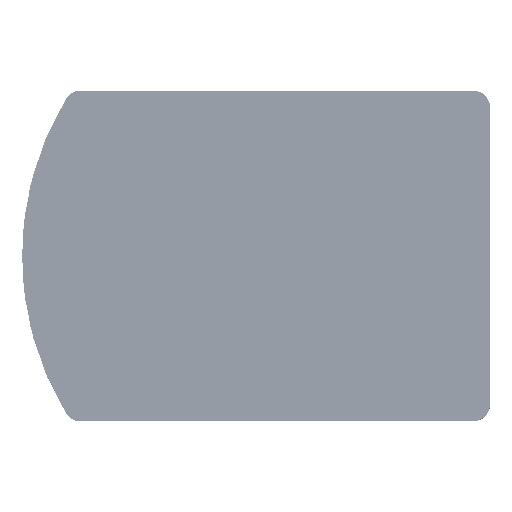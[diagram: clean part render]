
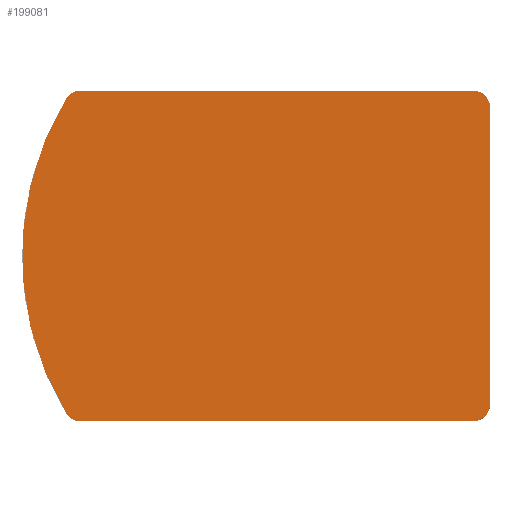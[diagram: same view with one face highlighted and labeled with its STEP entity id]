
A CAD part, top view. The second image highlights one B-rep face of the part: STEP entity #199081.
In plain terms, the highlighted planar face has unit normal (0, 0, 1) as drawn and (0, 0, -1) by its records, which use the part's own axes.
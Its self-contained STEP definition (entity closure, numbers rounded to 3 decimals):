
#963 = CARTESIAN_POINT ( 'NONE',  ( 7.995, 58.558, 0. ) ) ;
#3598 = PLANE ( 'NONE',  #190160 ) ;
#9340 = CARTESIAN_POINT ( 'NONE',  ( 55., 30., 0. ) ) ;
#9962 = CARTESIAN_POINT ( 'NONE',  ( 0., 60., 0. ) ) ;
#15279 = EDGE_CURVE ( 'NONE', #103298, #31121, #136361, .T. ) ;
#15911 = CIRCLE ( 'NONE', #216139, 3. ) ;
#15930 = CIRCLE ( 'NONE', #50949, 3. ) ;
#17712 = VERTEX_POINT ( 'NONE', #196132 ) ;
#31121 = VERTEX_POINT ( 'NONE', #201487 ) ;
#31134 = LINE ( 'NONE', #32179, #40823 ) ;
#32179 = CARTESIAN_POINT ( 'NONE',  ( 85., 0., 0. ) ) ;
#35618 = CIRCLE ( 'NONE', #100342, 0.1 ) ;
#36055 = CARTESIAN_POINT ( 'NONE',  ( 82., 57., 0. ) ) ;
#36875 = ORIENTED_EDGE ( 'NONE', *, *, #173517, .T. ) ;
#39883 = EDGE_CURVE ( 'NONE', #17712, #31121, #234152, .T. ) ;
#40093 = VERTEX_POINT ( 'NONE', #963 ) ;
#40823 = VECTOR ( 'NONE', #262968, 1000. ) ;
#46504 = FACE_OUTER_BOUND ( 'NONE', #217631, .T. ) ;
#48311 = VERTEX_POINT ( 'NONE', #217189 ) ;
#48363 = DIRECTION ( 'NONE',  ( -1., 0., 0. ) ) ;
#50949 = AXIS2_PLACEMENT_3D ( 'NONE', #36055, #56291, #76420 ) ;
#51376 = EDGE_CURVE ( 'NONE', #17712, #266921, #15911, .T. ) ;
#54382 = CARTESIAN_POINT ( 'NONE',  ( 0., 0., 0. ) ) ;
#56291 = DIRECTION ( 'NONE',  ( 0., 0., -1. ) ) ;
#60411 = ORIENTED_EDGE ( 'NONE', *, *, #91990, .T. ) ;
#65160 = CARTESIAN_POINT ( 'NONE',  ( 0., 0., 0. ) ) ;
#74858 = CARTESIAN_POINT ( 'NONE',  ( 85., 57., 0. ) ) ;
#76420 = DIRECTION ( 'NONE',  ( -1., 0., 0. ) ) ;
#77360 = DIRECTION ( 'NONE',  ( -1., 0., 0. ) ) ;
#79246 = CARTESIAN_POINT ( 'NONE',  ( 10.559, 3., 0. ) ) ;
#91990 = EDGE_CURVE ( 'NONE', #232870, #48311, #35618, .T. ) ;
#93753 = DIRECTION ( 'NONE',  ( 1., 0., 0. ) ) ;
#98642 = EDGE_CURVE ( 'NONE', #48311, #232870, #218392, .T. ) ;
#98666 = ORIENTED_EDGE ( 'NONE', *, *, #243011, .F. ) ;
#99863 = VECTOR ( 'NONE', #93753, 1000. ) ;
#100342 = AXIS2_PLACEMENT_3D ( 'NONE', #250335, #209951, #144077 ) ;
#100912 = ORIENTED_EDGE ( 'NONE', *, *, #121033, .F. ) ;
#100984 = CARTESIAN_POINT ( 'NONE',  ( 54.9, 30., 0. ) ) ;
#103298 = VERTEX_POINT ( 'NONE', #203201 ) ;
#103918 = VERTEX_POINT ( 'NONE', #117272 ) ;
#106107 = VERTEX_POINT ( 'NONE', #74858 ) ;
#110207 = AXIS2_PLACEMENT_3D ( 'NONE', #151718, #153500, #48363 ) ;
#111183 = DIRECTION ( 'NONE',  ( 0., 0., 1. ) ) ;
#113495 = CIRCLE ( 'NONE', #221905, 55. ) ;
#117272 = CARTESIAN_POINT ( 'NONE',  ( 82., 60., 0. ) ) ;
#118468 = AXIS2_PLACEMENT_3D ( 'NONE', #181949, #224219, #264549 ) ;
#121033 = EDGE_CURVE ( 'NONE', #103918, #126972, #175759, .T. ) ;
#123171 = DIRECTION ( 'NONE',  ( 0., 0., -1. ) ) ;
#126972 = VERTEX_POINT ( 'NONE', #266556 ) ;
#136361 = CIRCLE ( 'NONE', #272070, 3. ) ;
#144077 = DIRECTION ( 'NONE',  ( 1., 0., 0. ) ) ;
#150134 = DIRECTION ( 'NONE',  ( 0., 0., -1. ) ) ;
#151718 = CARTESIAN_POINT ( 'NONE',  ( 10.559, 57., 0. ) ) ;
#152889 = VECTOR ( 'NONE', #263722, 1000. ) ;
#153500 = DIRECTION ( 'NONE',  ( 0., 0., -1. ) ) ;
#163629 = EDGE_LOOP ( 'NONE', ( #60411, #169906 ) ) ;
#169889 = EDGE_CURVE ( 'NONE', #103918, #106107, #15930, .T. ) ;
#169906 = ORIENTED_EDGE ( 'NONE', *, *, #98642, .T. ) ;
#171829 = EDGE_CURVE ( 'NONE', #103298, #106107, #31134, .T. ) ;
#173517 = EDGE_CURVE ( 'NONE', #40093, #126972, #242141, .T. ) ;
#174241 = DIRECTION ( 'NONE',  ( 1., 0., 0. ) ) ;
#175006 = ORIENTED_EDGE ( 'NONE', *, *, #15279, .T. ) ;
#175759 = LINE ( 'NONE', #9962, #152889 ) ;
#175901 = CARTESIAN_POINT ( 'NONE',  ( 7.995, 1.442, 0. ) ) ;
#178108 = ORIENTED_EDGE ( 'NONE', *, *, #51376, .T. ) ;
#181949 = CARTESIAN_POINT ( 'NONE',  ( 55., 30., 0. ) ) ;
#182479 = CARTESIAN_POINT ( 'NONE',  ( 82., 3., 0. ) ) ;
#190160 = AXIS2_PLACEMENT_3D ( 'NONE', #65160, #150134, #233620 ) ;
#196132 = CARTESIAN_POINT ( 'NONE',  ( 10.559, 0., 0. ) ) ;
#199081 = ADVANCED_FACE ( 'NONE', ( #210071, #46504 ), #3598, .T. ) ;
#201487 = CARTESIAN_POINT ( 'NONE',  ( 82., 0., 0. ) ) ;
#203201 = CARTESIAN_POINT ( 'NONE',  ( 85., 3., 0. ) ) ;
#206236 = ORIENTED_EDGE ( 'NONE', *, *, #39883, .F. ) ;
#209951 = DIRECTION ( 'NONE',  ( 0., 0., 1. ) ) ;
#210071 = FACE_BOUND ( 'NONE', #163629, .T. ) ;
#216139 = AXIS2_PLACEMENT_3D ( 'NONE', #79246, #123171, #269715 ) ;
#217189 = CARTESIAN_POINT ( 'NONE',  ( 55.1, 30., 0. ) ) ;
#217631 = EDGE_LOOP ( 'NONE', ( #206236, #178108, #98666, #36875, #100912, #222693, #226974, #175006 ) ) ;
#218392 = CIRCLE ( 'NONE', #118468, 0.1 ) ;
#221905 = AXIS2_PLACEMENT_3D ( 'NONE', #9340, #111183, #174241 ) ;
#222034 = DIRECTION ( 'NONE',  ( 0., 0., -1. ) ) ;
#222693 = ORIENTED_EDGE ( 'NONE', *, *, #169889, .T. ) ;
#224219 = DIRECTION ( 'NONE',  ( 0., 0., 1. ) ) ;
#226974 = ORIENTED_EDGE ( 'NONE', *, *, #171829, .F. ) ;
#232870 = VERTEX_POINT ( 'NONE', #100984 ) ;
#233620 = DIRECTION ( 'NONE',  ( -1., 0., 0. ) ) ;
#234152 = LINE ( 'NONE', #54382, #99863 ) ;
#242141 = CIRCLE ( 'NONE', #110207, 3. ) ;
#243011 = EDGE_CURVE ( 'NONE', #40093, #266921, #113495, .T. ) ;
#250335 = CARTESIAN_POINT ( 'NONE',  ( 55., 30., 0. ) ) ;
#262968 = DIRECTION ( 'NONE',  ( 0., 1., 0. ) ) ;
#263722 = DIRECTION ( 'NONE',  ( -1., 0., 0. ) ) ;
#264549 = DIRECTION ( 'NONE',  ( 1., 0., 0. ) ) ;
#266556 = CARTESIAN_POINT ( 'NONE',  ( 10.559, 60., 0. ) ) ;
#266921 = VERTEX_POINT ( 'NONE', #175901 ) ;
#269715 = DIRECTION ( 'NONE',  ( -1., 0., 0. ) ) ;
#272070 = AXIS2_PLACEMENT_3D ( 'NONE', #182479, #222034, #77360 ) ;
